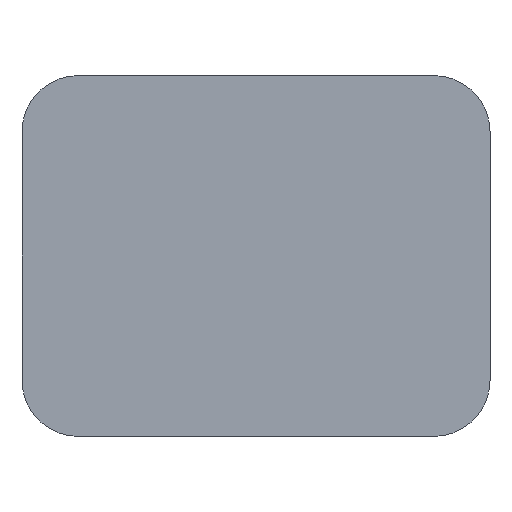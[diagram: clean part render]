
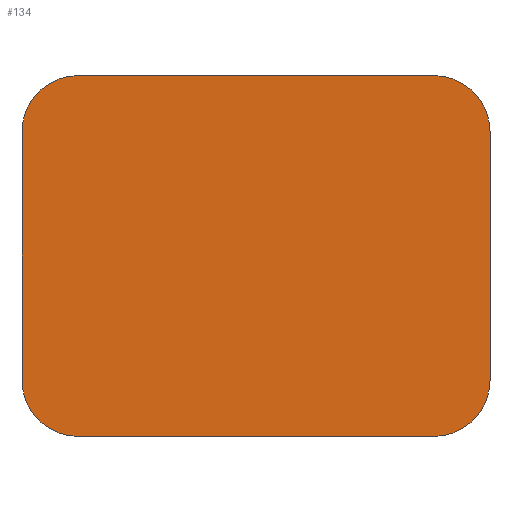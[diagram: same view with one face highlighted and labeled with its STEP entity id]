
A CAD part, left-side view. The second image highlights one B-rep face of the part: STEP entity #134.
In plain terms, the highlighted planar face has unit normal (-1, 0, 0).
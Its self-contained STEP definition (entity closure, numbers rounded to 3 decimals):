
#134=ADVANCED_FACE('',(#251),#218,.F.);
#218=PLANE('',#1425);
#251=FACE_OUTER_BOUND('',#330,.T.);
#330=EDGE_LOOP('',(#706,#707,#708,#709,#710,#711,#712,#713));
#424=CIRCLE('',#1421,10.);
#425=CIRCLE('',#1422,10.);
#426=CIRCLE('',#1423,10.);
#427=CIRCLE('',#1424,10.);
#486=LINE('',#2049,#579);
#489=LINE('',#2058,#582);
#494=LINE('',#2069,#587);
#498=LINE('',#2079,#591);
#579=VECTOR('',#1599,1.);
#582=VECTOR('',#1608,1.);
#587=VECTOR('',#1615,1.);
#591=VECTOR('',#1623,1.);
#706=ORIENTED_EDGE('',*,*,#1216,.F.);
#707=ORIENTED_EDGE('',*,*,#1223,.T.);
#708=ORIENTED_EDGE('',*,*,#1211,.F.);
#709=ORIENTED_EDGE('',*,*,#1224,.T.);
#710=ORIENTED_EDGE('',*,*,#1206,.F.);
#711=ORIENTED_EDGE('',*,*,#1225,.T.);
#712=ORIENTED_EDGE('',*,*,#1221,.F.);
#713=ORIENTED_EDGE('',*,*,#1226,.T.);
#1078=VERTEX_POINT('',#2048);
#1079=VERTEX_POINT('',#2050);
#1081=VERTEX_POINT('',#2057);
#1082=VERTEX_POINT('',#2059);
#1086=VERTEX_POINT('',#2068);
#1087=VERTEX_POINT('',#2070);
#1090=VERTEX_POINT('',#2078);
#1091=VERTEX_POINT('',#2080);
#1206=EDGE_CURVE('',#1078,#1079,#486,.T.);
#1211=EDGE_CURVE('',#1081,#1082,#489,.T.);
#1216=EDGE_CURVE('',#1086,#1087,#494,.T.);
#1221=EDGE_CURVE('',#1090,#1091,#498,.T.);
#1223=EDGE_CURVE('',#1086,#1082,#424,.T.);
#1224=EDGE_CURVE('',#1081,#1079,#425,.T.);
#1225=EDGE_CURVE('',#1078,#1091,#426,.T.);
#1226=EDGE_CURVE('',#1090,#1087,#427,.T.);
#1421=AXIS2_PLACEMENT_3D('',#2083,#1627,#1628);
#1422=AXIS2_PLACEMENT_3D('',#2084,#1629,#1630);
#1423=AXIS2_PLACEMENT_3D('',#2085,#1631,#1632);
#1424=AXIS2_PLACEMENT_3D('',#2086,#1633,#1634);
#1425=AXIS2_PLACEMENT_3D('',#2087,#1635,#1636);
#1599=DIRECTION('',(0.,0.,-1.));
#1608=DIRECTION('',(0.,1.,0.));
#1615=DIRECTION('',(0.,0.,1.));
#1623=DIRECTION('',(0.,-1.,0.));
#1627=DIRECTION('',(-1.,0.,0.));
#1628=DIRECTION('',(0.,0.,-1.));
#1629=DIRECTION('',(-1.,0.,0.));
#1630=DIRECTION('',(0.,0.,-1.));
#1631=DIRECTION('',(-1.,0.,0.));
#1632=DIRECTION('',(0.,0.,-1.));
#1633=DIRECTION('',(-1.,0.,0.));
#1634=DIRECTION('',(0.,0.,-1.));
#1635=DIRECTION('',(1.,0.,0.));
#1636=DIRECTION('',(0.,0.,-1.));
#2048=CARTESIAN_POINT('',(-14.,-33.832,22.));
#2049=CARTESIAN_POINT('',(-14.,-33.832,32.));
#2050=CARTESIAN_POINT('',(-14.,-33.832,-22.));
#2057=CARTESIAN_POINT('',(-14.,-23.832,-32.));
#2058=CARTESIAN_POINT('',(-14.,-33.832,-32.));
#2059=CARTESIAN_POINT('',(-14.,39.168,-32.));
#2068=CARTESIAN_POINT('',(-14.,49.168,-22.));
#2069=CARTESIAN_POINT('',(-14.,49.168,-32.));
#2070=CARTESIAN_POINT('',(-14.,49.168,22.));
#2078=CARTESIAN_POINT('',(-14.,39.168,32.));
#2079=CARTESIAN_POINT('',(-14.,49.168,32.));
#2080=CARTESIAN_POINT('',(-14.,-23.832,32.));
#2083=CARTESIAN_POINT('',(-14.,39.168,-22.));
#2084=CARTESIAN_POINT('',(-14.,-23.832,-22.));
#2085=CARTESIAN_POINT('',(-14.,-23.832,22.));
#2086=CARTESIAN_POINT('',(-14.,39.168,22.));
#2087=CARTESIAN_POINT('',(-14.,0.,0.));
